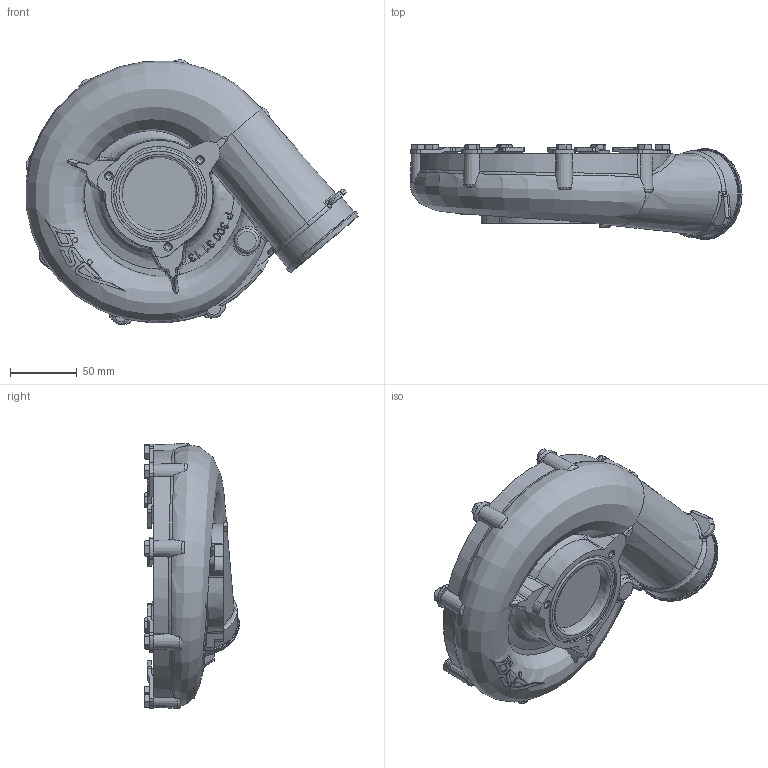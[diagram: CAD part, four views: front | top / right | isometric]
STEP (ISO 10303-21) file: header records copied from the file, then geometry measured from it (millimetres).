
FILE_DESCRIPTION((''),'2;1');
FILE_NAME('W:\P_Projekte\Vorlagen\Datensatz Kompressor\Step Datensätze\P300-00-36_Kompressor_ASA_T1-313_Verdichter.stp','2009-11-30T10:40:24',('johannes.strobel'),(''),'Autodesk Inventor 11','Autodesk Inventor 11','');
FILE_SCHEMA(('AUTOMOTIVE_DESIGN { 1 0 10303 214 1 1 1 1 }'));
Length unit declared in the file: millimetre
Products named in the file (1): P300-00-36_Kompressor_ASA_T1-313_Verdichter
Bounding box: 248.59 x 71.05 x 198.34 mm (x, y, z)
Volume: 1164959.9 mm3; surface area: 120714.1 mm2
Topology: 1 solids, 1 shells, 1313 faces, 3711 edges, 2428 vertices
Faces by surface type: plane 940, bspline 181, cylinder 93, cone 78, torus 17, sphere 4
Full cylindrical faces by diameter (mm): 8.7 x8, 65 x1, 71.6 x1, 182 x1
Entity records: 57487 total; most frequent: CARTESIAN_POINT 28021, ORIENTED_EDGE 7342, DIRECTION 4309, EDGE_CURVE 3671, VERTEX_POINT 2420, B_SPLINE_CURVE_WITH_KNOTS 1920, AXIS2_PLACEMENT_3D 1528, EDGE_LOOP 1373
